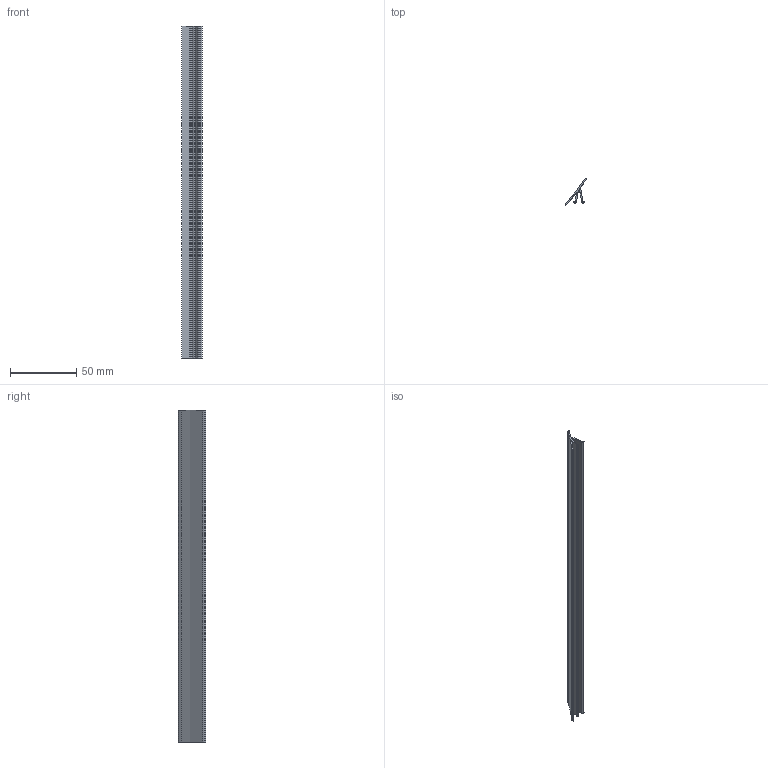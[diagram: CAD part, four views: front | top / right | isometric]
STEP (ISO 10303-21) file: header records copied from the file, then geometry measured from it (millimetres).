
FILE_DESCRIPTION (( 'STEP AP214' ), '1' );
FILE_NAME ('F50827A-2.step', '2024-12-03T16:18:05', ( '' ), ( '' ), 'SwSTEP 2.0', 'SolidWorks 2023', '' );
FILE_SCHEMA (( 'AUTOMOTIVE_DESIGN' ));
Length unit declared in the file: millimetre
Products named in the file (1): F50827A-2
Bounding box: 15.45 x 20.5 x 250 mm (x, y, z)
Volume: 11482.2 mm3; surface area: 23679.5 mm2
Topology: 2 solids, 2 shells, 32 faces, 84 edges, 56 vertices
Faces by surface type: plane 23, cylinder 9
Entity records: 1018 total; most frequent: CARTESIAN_POINT 173, DIRECTION 168, ORIENTED_EDGE 168, EDGE_CURVE 84, VECTOR 66, LINE 66, VERTEX_POINT 56, AXIS2_PLACEMENT_3D 51
